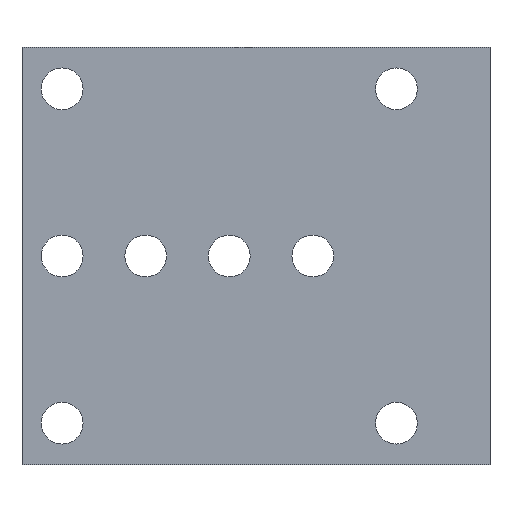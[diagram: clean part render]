
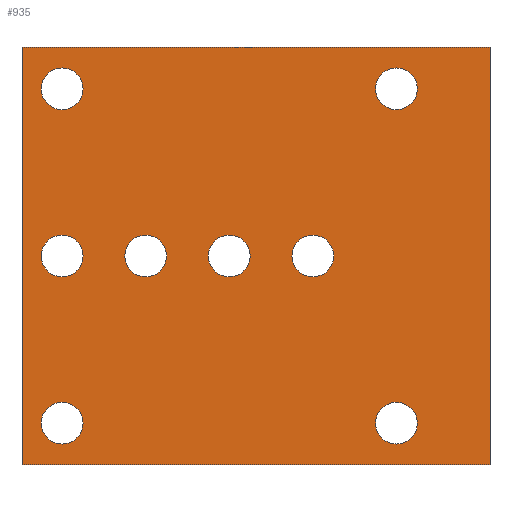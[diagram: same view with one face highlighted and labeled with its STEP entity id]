
A CAD part, left-side view. The second image highlights one B-rep face of the part: STEP entity #935.
In plain terms, the highlighted planar face has unit normal (-1, 0, 0).
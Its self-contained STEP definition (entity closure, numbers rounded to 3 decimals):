
#213=CARTESIAN_POINT('',(0.,15.6,13.75));
#214=VERTEX_POINT('',#213);
#215=CARTESIAN_POINT('',(0.0,15.6,12.5));
#216=DIRECTION('',(1.0,0.0,0.0));
#217=DIRECTION('',(0.0,0.0,-1.0));
#218=AXIS2_PLACEMENT_3D('',#215,#216,#217);
#219=CIRCLE('',#218,1.25);
#220=EDGE_CURVE('',#214,#214,#219,.T.);
#241=CARTESIAN_POINT('',(0.,25.6,13.75));
#242=VERTEX_POINT('',#241);
#243=CARTESIAN_POINT('',(0.,25.6,12.5));
#244=DIRECTION('',(1.0,0.0,0.0));
#245=DIRECTION('',(0.0,0.0,-1.0));
#246=AXIS2_PLACEMENT_3D('',#243,#244,#245);
#247=CIRCLE('',#246,1.25);
#248=EDGE_CURVE('',#242,#242,#247,.T.);
#317=CARTESIAN_POINT('',(0.,20.6,13.75));
#318=VERTEX_POINT('',#317);
#319=CARTESIAN_POINT('',(0.,20.6,12.5));
#320=DIRECTION('',(1.0,0.0,0.0));
#321=DIRECTION('',(0.0,0.0,-1.0));
#322=AXIS2_PLACEMENT_3D('',#319,#320,#321);
#323=CIRCLE('',#322,1.25);
#324=EDGE_CURVE('',#318,#318,#323,.T.);
#385=CARTESIAN_POINT('',(0.,5.6,3.75));
#386=VERTEX_POINT('',#385);
#387=CARTESIAN_POINT('',(0.0,5.6,2.5));
#388=DIRECTION('',(1.0,0.0,0.0));
#389=DIRECTION('',(0.0,0.0,-1.0));
#390=AXIS2_PLACEMENT_3D('',#387,#388,#389);
#391=CIRCLE('',#390,1.25);
#392=EDGE_CURVE('',#386,#386,#391,.T.);
#453=CARTESIAN_POINT('',(0.,25.6,23.75));
#454=VERTEX_POINT('',#453);
#455=CARTESIAN_POINT('',(0.,25.6,22.5));
#456=DIRECTION('',(1.0,0.0,0.0));
#457=DIRECTION('',(0.0,0.0,-1.0));
#458=AXIS2_PLACEMENT_3D('',#455,#456,#457);
#459=CIRCLE('',#458,1.25);
#460=EDGE_CURVE('',#454,#454,#459,.T.);
#521=CARTESIAN_POINT('',(0.,25.6,3.75));
#522=VERTEX_POINT('',#521);
#523=CARTESIAN_POINT('',(0.,25.6,2.5));
#524=DIRECTION('',(1.0,0.0,0.0));
#525=DIRECTION('',(0.0,0.0,-1.0));
#526=AXIS2_PLACEMENT_3D('',#523,#524,#525);
#527=CIRCLE('',#526,1.25);
#528=EDGE_CURVE('',#522,#522,#527,.T.);
#589=CARTESIAN_POINT('',(0.,5.6,23.75));
#590=VERTEX_POINT('',#589);
#591=CARTESIAN_POINT('',(0.0,5.6,22.5));
#592=DIRECTION('',(1.0,0.0,0.0));
#593=DIRECTION('',(0.0,0.0,-1.0));
#594=AXIS2_PLACEMENT_3D('',#591,#592,#593);
#595=CIRCLE('',#594,1.25);
#596=EDGE_CURVE('',#590,#590,#595,.T.);
#657=CARTESIAN_POINT('',(0.,10.6,13.75));
#658=VERTEX_POINT('',#657);
#659=CARTESIAN_POINT('',(0.0,10.6,12.5));
#660=DIRECTION('',(1.0,0.0,0.0));
#661=DIRECTION('',(0.0,0.0,-1.0));
#662=AXIS2_PLACEMENT_3D('',#659,#660,#661);
#663=CIRCLE('',#662,1.25);
#664=EDGE_CURVE('',#658,#658,#663,.T.);
#677=CARTESIAN_POINT('',(0.,28.,25.));
#678=VERTEX_POINT('',#677);
#695=CARTESIAN_POINT('',(0.,28.,0.0));
#696=VERTEX_POINT('',#695);
#703=CARTESIAN_POINT('',(0.,28.,0.0));
#704=DIRECTION('',(0.0,0.0,1.0));
#705=VECTOR('',#704,25.);
#706=LINE('',#703,#705);
#707=EDGE_CURVE('',#696,#678,#706,.T.);
#849=CARTESIAN_POINT('',(0.0,0.0,25.));
#850=VERTEX_POINT('',#849);
#857=CARTESIAN_POINT('',(0.0,0.0,0.0));
#858=VERTEX_POINT('',#857);
#859=CARTESIAN_POINT('',(0.0,0.0,0.0));
#860=DIRECTION('',(0.0,0.0,1.0));
#861=VECTOR('',#860,25.);
#862=LINE('',#859,#861);
#863=EDGE_CURVE('',#858,#850,#862,.T.);
#890=CARTESIAN_POINT('',(0.0,0.0,0.0));
#891=DIRECTION('',(-1.0,0.0,0.0));
#892=DIRECTION('',(0.0,0.0,1.0));
#893=AXIS2_PLACEMENT_3D('',#890,#891,#892);
#894=PLANE('',#893);
#895=CARTESIAN_POINT('',(0.0,0.0,25.));
#896=DIRECTION('',(0.0,1.0,0.0));
#897=VECTOR('',#896,28.);
#898=LINE('',#895,#897);
#899=EDGE_CURVE('',#850,#678,#898,.T.);
#900=ORIENTED_EDGE('',*,*,#899,.T.);
#901=ORIENTED_EDGE('',*,*,#707,.F.);
#902=CARTESIAN_POINT('',(0.0,0.0,0.0));
#903=DIRECTION('',(0.0,1.0,0.0));
#904=VECTOR('',#903,28.);
#905=LINE('',#902,#904);
#906=EDGE_CURVE('',#858,#696,#905,.T.);
#907=ORIENTED_EDGE('',*,*,#906,.F.);
#908=ORIENTED_EDGE('',*,*,#863,.T.);
#909=EDGE_LOOP('',(#900,#901,#907,#908));
#910=FACE_OUTER_BOUND('',#909,.T.);
#911=ORIENTED_EDGE('',*,*,#220,.T.);
#912=EDGE_LOOP('',(#911));
#913=FACE_BOUND('',#912,.T.);
#914=ORIENTED_EDGE('',*,*,#248,.T.);
#915=EDGE_LOOP('',(#914));
#916=FACE_BOUND('',#915,.T.);
#917=ORIENTED_EDGE('',*,*,#324,.T.);
#918=EDGE_LOOP('',(#917));
#919=FACE_BOUND('',#918,.T.);
#920=ORIENTED_EDGE('',*,*,#392,.T.);
#921=EDGE_LOOP('',(#920));
#922=FACE_BOUND('',#921,.T.);
#923=ORIENTED_EDGE('',*,*,#460,.T.);
#924=EDGE_LOOP('',(#923));
#925=FACE_BOUND('',#924,.T.);
#926=ORIENTED_EDGE('',*,*,#528,.T.);
#927=EDGE_LOOP('',(#926));
#928=FACE_BOUND('',#927,.T.);
#929=ORIENTED_EDGE('',*,*,#596,.T.);
#930=EDGE_LOOP('',(#929));
#931=FACE_BOUND('',#930,.T.);
#932=ORIENTED_EDGE('',*,*,#664,.T.);
#933=EDGE_LOOP('',(#932));
#934=FACE_BOUND('',#933,.T.);
#935=ADVANCED_FACE('',(#910,#913,#916,#919,#922,#925,#928,#931,#934),#894,.T.);
